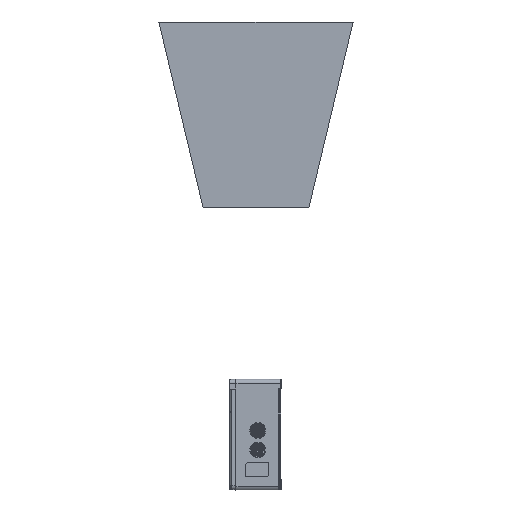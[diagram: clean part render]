
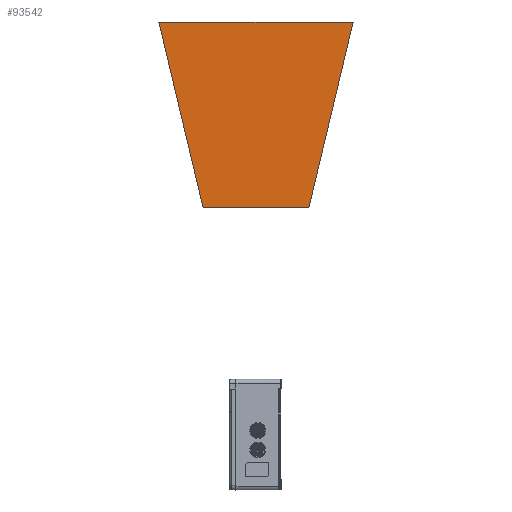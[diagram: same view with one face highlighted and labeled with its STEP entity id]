
A CAD part, left-side view. The second image highlights one B-rep face of the part: STEP entity #93542.
In plain terms, the highlighted planar face has unit normal (1, 0, 0).
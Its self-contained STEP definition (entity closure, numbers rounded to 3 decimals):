
#93503=DIRECTION('',(0.,-0.232,-0.973));
#93504=VECTOR('',#93503,215.87);
#93505=CARTESIAN_POINT('',(85.4,87.,467.5));
#93506=LINE('',#93505,#93504);
#93507=DIRECTION('',(0.,-1.,0.));
#93508=VECTOR('',#93507,120.);
#93509=CARTESIAN_POINT('',(85.4,37.,257.5));
#93510=LINE('',#93509,#93508);
#93511=DIRECTION('',(0.,-0.232,0.973));
#93512=VECTOR('',#93511,215.87);
#93513=CARTESIAN_POINT('',(85.4,-83.,257.5));
#93514=LINE('',#93513,#93512);
#93515=DIRECTION('',(0.,1.,0.));
#93516=VECTOR('',#93515,220.);
#93517=CARTESIAN_POINT('',(85.4,-133.,467.5));
#93518=LINE('',#93517,#93516);
#93519=CARTESIAN_POINT('',(85.4,37.,257.5));
#93520=CARTESIAN_POINT('',(85.4,87.,467.5));
#93521=VERTEX_POINT('',#93519);
#93522=VERTEX_POINT('',#93520);
#93523=CARTESIAN_POINT('',(85.4,-133.,467.5));
#93524=VERTEX_POINT('',#93523);
#93525=CARTESIAN_POINT('',(85.4,-83.,257.5));
#93526=VERTEX_POINT('',#93525);
#93527=CARTESIAN_POINT('',(85.4,0.,0.));
#93528=DIRECTION('',(1.,0.,0.));
#93529=DIRECTION('',(0.,-1.,0.));
#93530=AXIS2_PLACEMENT_3D('',#93527,#93528,#93529);
#93531=PLANE('',#93530);
#93533=ORIENTED_EDGE('',*,*,#93532,.T.);
#93535=ORIENTED_EDGE('',*,*,#93534,.T.);
#93537=ORIENTED_EDGE('',*,*,#93536,.T.);
#93539=ORIENTED_EDGE('',*,*,#93538,.T.);
#93540=EDGE_LOOP('',(#93533,#93535,#93537,#93539));
#93541=FACE_OUTER_BOUND('',#93540,.F.);
#93542=ADVANCED_FACE('',(#93541),#93531,.T.);
#93532=EDGE_CURVE('',#93522,#93521,#93506,.T.);
#93534=EDGE_CURVE('',#93521,#93526,#93510,.T.);
#93536=EDGE_CURVE('',#93526,#93524,#93514,.T.);
#93538=EDGE_CURVE('',#93524,#93522,#93518,.T.);
